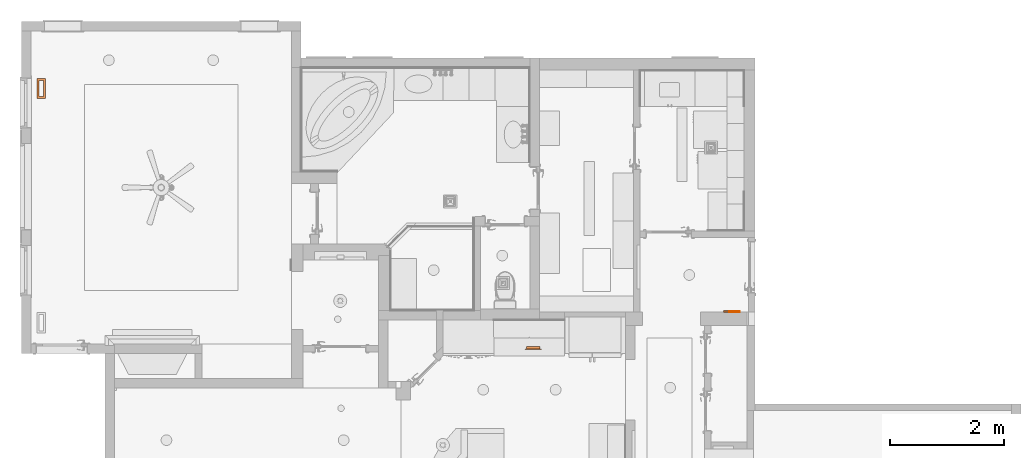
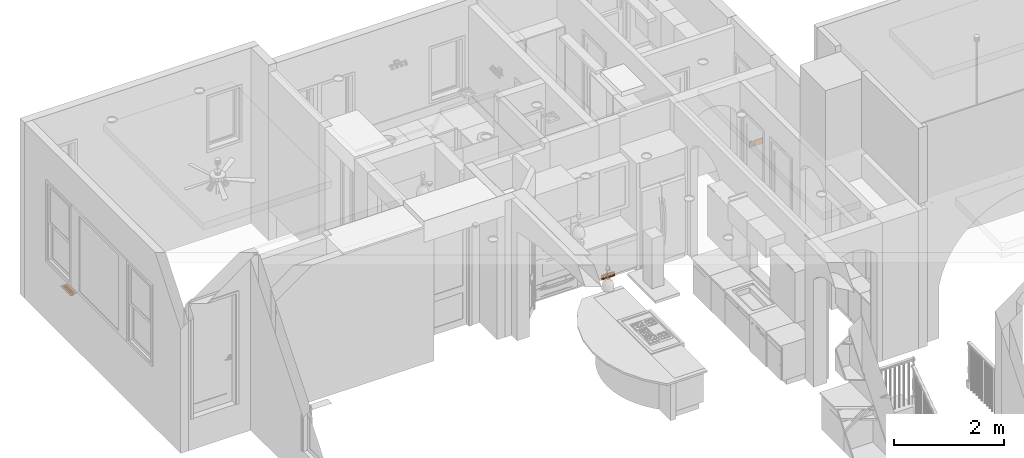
# One storey, part 74 of 77: 4 proxies.
"""IFC2X3 building model written with IfcOpenShell, lengths in inches."""

from ifc_helpers import new_model, entity, si_unit, converted_unit, derived_unit, money_unit, direction, frame, origin_with_axes, place, context, subcontext, project, spatial, open_shell, faceted_brep, surface_model, material, type_object, element, save


model = new_model("IFC2X3")

# Units and contexts
model_context = context("Model", 3, precision=0.000393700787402, world=origin_with_axes(), true_north=direction((0.0, 1.0)))
body_context = subcontext(model_context, "Body", "Model", "MODEL_VIEW")
ifc_project = project(units=[converted_unit("LENGTHUNIT", "INCH", entity("IfcPositiveLengthMeasure", 0.0254), si_unit("LENGTHUNIT", "METRE"), dimensions=[1, 0, 0, 0, 0, 0, 0]), converted_unit("AREAUNIT", "SQUARE_FOOT", entity("IfcPositiveLengthMeasure", 0.09290304), si_unit("AREAUNIT", "SQUARE_METRE"), dimensions=[2, 0, 0, 0, 0, 0, 0]), si_unit("PLANEANGLEUNIT", "RADIAN"), si_unit("SOLIDANGLEUNIT", "STERADIAN"), money_unit("USD"), converted_unit("TIMEUNIT", "Year", entity("IfcTimeMeasure", 31556926.0), si_unit("TIMEUNIT", "SECOND"), dimensions=[0, 0, 1, 0, 0, 0, 0]), si_unit("MASSUNIT", "GRAM", prefix="KILO"), si_unit("THERMODYNAMICTEMPERATUREUNIT", "DEGREE_CELSIUS"), si_unit("LUMINOUSINTENSITYUNIT", "LUMEN"), si_unit("ENERGYUNIT", "JOULE", prefix="MEGA"), derived_unit("THERMALCONDUCTANCEUNIT", [(si_unit("POWERUNIT", "WATT"), 1), (si_unit("LENGTHUNIT", "METRE"), -1), (si_unit("THERMODYNAMICTEMPERATUREUNIT", "KELVIN"), -1)]), derived_unit("SPECIFICHEATCAPACITYUNIT", [(si_unit("ENERGYUNIT", "JOULE"), 1), (si_unit("MASSUNIT", "GRAM", prefix="KILO"), -1), (si_unit("THERMODYNAMICTEMPERATUREUNIT", "KELVIN"), -1)]), derived_unit("MASSDENSITYUNIT", [(si_unit("MASSUNIT", "GRAM", prefix="KILO"), 1), (si_unit("VOLUMEUNIT", "CUBIC_METRE"), -1)])], contexts=[model_context])

# Site, building, storey
site_placement = place(None, origin_with_axes())
site = spatial("IfcSite", under=ifc_project, at=site_placement, Name="Site", CompositionType="ELEMENT")
building_placement = place(site_placement, origin_with_axes())
building = spatial("IfcBuilding", under=site, at=building_placement, Name="Building", CompositionType="ELEMENT")
storey_placement = place(building_placement, frame((0.0, 0.0, 127.952755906), z_axis=(0.0, 0.0, 1.0), x_axis=(1.0, 0.0, 0.0)))
storey = spatial("IfcBuildingStorey", under=building, at=storey_placement, Name="Second Floor", CompositionType="ELEMENT", Elevation=127.953)

# Proxies
ifc_material = material(Name="Generic - Structural")
building_element_proxy_type_1 = type_object("IfcBuildingElementProxyType", Name="Generic - Structural", PredefinedType="NOTDEFINED")
proxy_1_placement = place(storey_placement, frame((1909.2890168, 413.904050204, 51.968503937), z_axis=(0.0, 0.0, 1.0), x_axis=(1.0, 0.0, 0.0)))
element("IfcBuildingElementProxy", 1, at=proxy_1_placement, inside=storey, type_object=building_element_proxy_type_1, material=ifc_material, Name="MORPH-016", context=body_context, shape_type="Brep", body=[
    faceted_brep([(-1200.0, 0.0, 5.0), (-1200.0, 0.0, 0.0675863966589), (-1192.91125523, -2.01293400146e-08, 0.0675863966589), (-1192.91125523, -2.01293400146e-08, 5.0), (-1200.0, 0.582194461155, 0.0675863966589), (-1200.0, 0.582194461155, 5.0), (-1192.91125523, 0.582194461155, 0.0675863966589), (-1192.91125523, 0.582194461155, 5.0)], [[[0, 1, 2, 3]], [[4, 1, 0, 5]], [[2, 1, 6]], [[3, 2, 7]], [[5, 0, 3, 7]], [[1, 4, 6]], [[6, 4, 5]], [[2, 6, 7]], [[5, 7, 6]]]),
])
proxy_2_placement = place(storey_placement, frame((1905.2890168, 413.904050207, 56.968503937), z_axis=(1.0, 0.0, 0.0), x_axis=(0.0, 1.0, 0.0)))
element("IfcBuildingElementProxy", 2, at=proxy_2_placement, inside=storey, type_object=building_element_proxy_type_1, material=ifc_material, Name="MORPH-013", context=body_context, shape_type="Brep", body=[
    faceted_brep([(0.0, -4.93241360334, -1200.0), (0.0, -4.93241360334, -1197.03025611), (0.0, 0.0, -1197.03025611), (0.0, 0.0, -1200.0), (1.0, -4.93241360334, -1197.03025611), (1.0, 0.0, -1200.0), (1.0, 0.0, -1197.03025611), (1.0, -4.93241360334, -1200.0)], [[[0, 1, 2, 3]], [[1, 0, 4]], [[2, 1, 4]], [[5, 3, 2, 6]], [[0, 3, 5, 7]], [[0, 7, 4]], [[6, 2, 4]], [[4, 7, 5, 6]]]),
])
building_element_proxy_type_2 = type_object("IfcBuildingElementProxyType", Name="Sidewall Grille 25", PredefinedType="NOTDEFINED")
proxy_3_placement = place(storey_placement, frame((573.864643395, 388.211397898, 2.16535433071), z_axis=(0.0, 0.0, 1.0), x_axis=(1.0, 0.0, 0.0)))
element("IfcBuildingElementProxy", 3, at=proxy_3_placement, inside=storey, type_object=building_element_proxy_type_2, Name="FU - 004", context=body_context, shape_type="SurfaceModel", body=[
    faceted_brep([(5.6092519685, -0.196850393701, -2.1092519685), (-5.6092519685, -0.196850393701, -2.1092519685), (-5.6092519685, 0.0, -2.1092519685), (5.6092519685, 0.0, -2.1092519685), (5.6092519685, -0.196850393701, 2.1092519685), (-5.6092519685, -0.196850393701, 2.1092519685), (4.625, -0.196850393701, -1.125), (-4.625, -0.196850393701, -1.125), (-4.625, -0.196850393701, 1.125), (4.625, -0.196850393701, 1.125), (-5.6092519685, 0.0, 2.1092519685), (5.6092519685, 0.0, 2.1092519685), (4.625, 0.0, -1.125), (4.625, 0.0, 1.125), (-4.625, 0.0, 1.125), (-4.625, 0.0, -1.125)], [[[0, 1, 2, 3]], [[0, 4, 5, 1], [6, 7, 8, 9]], [[1, 5, 10, 2]], [[3, 2, 10, 11], [12, 13, 14, 15]], [[4, 0, 3, 11]], [[5, 4, 11, 10]], [[7, 6, 12, 15]], [[8, 7, 15, 14]], [[9, 8, 14, 13]], [[6, 9, 13, 12]]]),
    surface_model("IfcShellBasedSurfaceModel", [(-4.58562992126, -0.196850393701, -0.984251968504), (4.58562992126, -0.196850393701, -0.984251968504), (4.58562992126, 0.787401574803, -0.984251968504), (-4.58562992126, 0.787401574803, -0.984251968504)], [open_shell([[[0, 1, 2, 3]]])]),
    surface_model("IfcShellBasedSurfaceModel", [(-4.58562992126, -0.196850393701, 0.984251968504), (4.58562992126, -0.196850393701, 0.984251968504), (4.58562992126, 0.787401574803, 0.984251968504), (-4.58562992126, 0.787401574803, 0.984251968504)], [open_shell([[[0, 1, 2, 3]]])]),
    surface_model("IfcShellBasedSurfaceModel", [(3.93700787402, -0.196850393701, 1.08562992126), (3.93700787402, -0.196850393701, -1.08562992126), (3.93700787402, 0.787401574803, -1.08562992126), (3.93700787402, 0.787401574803, 1.08562992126)], [open_shell([[[0, 1, 2, 3]]])]),
    surface_model("IfcShellBasedSurfaceModel", [(1.96850393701, -0.196850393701, 1.08562992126), (1.96850393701, -0.196850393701, -1.08562992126), (1.96850393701, 0.787401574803, -1.08562992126), (1.96850393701, 0.787401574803, 1.08562992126)], [open_shell([[[0, 1, 2, 3]]])]),
    surface_model("IfcShellBasedSurfaceModel", [(0.0, -0.196850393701, 1.08562992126), (0.0, -0.196850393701, -1.08562992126), (0.0, 0.787401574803, -1.08562992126), (0.0, 0.787401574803, 1.08562992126)], [open_shell([[[0, 1, 2, 3]]])]),
    surface_model("IfcShellBasedSurfaceModel", [(-1.96850393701, -0.196850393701, 1.08562992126), (-1.96850393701, -0.196850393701, -1.08562992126), (-1.96850393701, 0.787401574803, -1.08562992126), (-1.96850393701, 0.787401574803, 1.08562992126)], [open_shell([[[0, 1, 2, 3]]])]),
    surface_model("IfcShellBasedSurfaceModel", [(-3.93700787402, -0.196850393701, 1.08562992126), (-3.93700787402, -0.196850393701, -1.08562992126), (-3.93700787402, 0.787401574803, -1.08562992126), (-3.93700787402, 0.787401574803, 1.08562992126)], [open_shell([[[0, 1, 2, 3]]])]),
    surface_model("IfcShellBasedSurfaceModel", [(-4.625, 0.0, -1.125), (-4.625, 0.0, 1.125), (-4.625, 1.96850393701, 1.125), (-4.625, 1.96850393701, -1.125), (4.625, 0.0, 1.125), (4.625, 1.96850393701, 1.125), (4.625, 0.0, -1.125), (4.625, 1.96850393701, -1.125)], [open_shell([[[0, 1, 2, 3]], [[1, 4, 5, 2]], [[6, 0, 3, 7]], [[4, 6, 7, 5]]])]),
])
building_element_proxy_type_3 = type_object("IfcBuildingElementProxyType", Name="Rect Floor Register 25", PredefinedType="NOTDEFINED")
proxy_4_placement = place(storey_placement, frame((233.695525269, 568.432751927, 0.0), z_axis=(0.0, 0.0, 1.0), x_axis=(0.0, -1.0, 0.0)))
element("IfcBuildingElementProxy", 4, at=proxy_4_placement, inside=storey, type_object=building_element_proxy_type_3, Name="FU - 027", context=body_context, shape_type="SurfaceModel", body=[
    faceted_brep([(6.95669291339, 2.95669291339, 0.0), (-6.95669291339, 2.95669291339, 0.0), (-6.95669291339, 2.95669291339, 0.196850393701), (6.95669291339, 2.95669291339, 0.196850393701), (6.95669291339, -2.95669291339, 0.0), (-6.95669291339, -2.95669291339, 0.0), (5.57874015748, 1.57874015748, 0.0), (-5.57874015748, 1.57874015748, 0.0), (-5.57874015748, -1.57874015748, 0.0), (5.57874015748, -1.57874015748, 0.0), (-6.95669291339, -2.95669291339, 0.196850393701), (6.95669291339, -2.95669291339, 0.196850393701), (5.57874015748, 1.57874015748, 0.196850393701), (5.57874015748, -1.57874015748, 0.196850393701), (-5.57874015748, -1.57874015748, 0.196850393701), (-5.57874015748, 1.57874015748, 0.196850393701)], [[[0, 1, 2, 3]], [[0, 4, 5, 1], [6, 7, 8, 9]], [[1, 5, 10, 2]], [[3, 2, 10, 11], [12, 13, 14, 15]], [[4, 0, 3, 11]], [[5, 4, 11, 10]], [[7, 6, 12, 15]], [[8, 7, 15, 14]], [[9, 8, 14, 13]], [[6, 9, 13, 12]]]),
    surface_model("IfcShellBasedSurfaceModel", [(-5.53937007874, 1.47637795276, -0.787401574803), (5.53937007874, 1.47637795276, -0.787401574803), (5.53937007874, 1.47637795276, 0.196850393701), (-5.53937007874, 1.47637795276, 0.196850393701)], [open_shell([[[0, 1, 2, 3]]])]),
    surface_model("IfcShellBasedSurfaceModel", [(-5.53937007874, 0.492125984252, -0.787401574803), (5.53937007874, 0.492125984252, -0.787401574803), (5.53937007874, 0.492125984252, 0.196850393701), (-5.53937007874, 0.492125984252, 0.196850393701)], [open_shell([[[0, 1, 2, 3]]])]),
    surface_model("IfcShellBasedSurfaceModel", [(-5.53937007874, -0.492125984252, -0.787401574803), (5.53937007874, -0.492125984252, -0.787401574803), (5.53937007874, -0.492125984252, 0.196850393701), (-5.53937007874, -0.492125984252, 0.196850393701)], [open_shell([[[0, 1, 2, 3]]])]),
    surface_model("IfcShellBasedSurfaceModel", [(-5.53937007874, -1.47637795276, -0.787401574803), (5.53937007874, -1.47637795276, -0.787401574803), (5.53937007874, -1.47637795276, 0.196850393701), (-5.53937007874, -1.47637795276, 0.196850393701)], [open_shell([[[0, 1, 2, 3]]])]),
    surface_model("IfcShellBasedSurfaceModel", [(5.41338582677, -1.53937007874, -0.787401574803), (5.41338582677, 1.53937007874, -0.787401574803), (5.41338582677, 1.53937007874, 0.196850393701), (5.41338582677, -1.53937007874, 0.196850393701)], [open_shell([[[0, 1, 2, 3]]])]),
    surface_model("IfcShellBasedSurfaceModel", [(4.42913385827, -1.53937007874, -0.787401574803), (4.42913385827, 1.53937007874, -0.787401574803), (4.42913385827, 1.53937007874, 0.196850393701), (4.42913385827, -1.53937007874, 0.196850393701)], [open_shell([[[0, 1, 2, 3]]])]),
    surface_model("IfcShellBasedSurfaceModel", [(3.44488188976, -1.53937007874, -0.787401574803), (3.44488188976, 1.53937007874, -0.787401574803), (3.44488188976, 1.53937007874, 0.196850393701), (3.44488188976, -1.53937007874, 0.196850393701)], [open_shell([[[0, 1, 2, 3]]])]),
    surface_model("IfcShellBasedSurfaceModel", [(2.46062992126, -1.53937007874, -0.787401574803), (2.46062992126, 1.53937007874, -0.787401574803), (2.46062992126, 1.53937007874, 0.196850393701), (2.46062992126, -1.53937007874, 0.196850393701)], [open_shell([[[0, 1, 2, 3]]])]),
    surface_model("IfcShellBasedSurfaceModel", [(1.47637795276, -1.53937007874, -0.787401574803), (1.47637795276, 1.53937007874, -0.787401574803), (1.47637795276, 1.53937007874, 0.196850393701), (1.47637795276, -1.53937007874, 0.196850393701)], [open_shell([[[0, 1, 2, 3]]])]),
    surface_model("IfcShellBasedSurfaceModel", [(0.492125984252, -1.53937007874, -0.787401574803), (0.492125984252, 1.53937007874, -0.787401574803), (0.492125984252, 1.53937007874, 0.196850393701), (0.492125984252, -1.53937007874, 0.196850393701)], [open_shell([[[0, 1, 2, 3]]])]),
    surface_model("IfcShellBasedSurfaceModel", [(-0.492125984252, -1.53937007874, -0.787401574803), (-0.492125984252, 1.53937007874, -0.787401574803), (-0.492125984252, 1.53937007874, 0.196850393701), (-0.492125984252, -1.53937007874, 0.196850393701)], [open_shell([[[0, 1, 2, 3]]])]),
    surface_model("IfcShellBasedSurfaceModel", [(-1.47637795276, -1.53937007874, -0.787401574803), (-1.47637795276, 1.53937007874, -0.787401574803), (-1.47637795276, 1.53937007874, 0.196850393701), (-1.47637795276, -1.53937007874, 0.196850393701)], [open_shell([[[0, 1, 2, 3]]])]),
    surface_model("IfcShellBasedSurfaceModel", [(-2.46062992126, -1.53937007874, -0.787401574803), (-2.46062992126, 1.53937007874, -0.787401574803), (-2.46062992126, 1.53937007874, 0.196850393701), (-2.46062992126, -1.53937007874, 0.196850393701)], [open_shell([[[0, 1, 2, 3]]])]),
    surface_model("IfcShellBasedSurfaceModel", [(-3.44488188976, -1.53937007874, -0.787401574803), (-3.44488188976, 1.53937007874, -0.787401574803), (-3.44488188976, 1.53937007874, 0.196850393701), (-3.44488188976, -1.53937007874, 0.196850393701)], [open_shell([[[0, 1, 2, 3]]])]),
    surface_model("IfcShellBasedSurfaceModel", [(-4.42913385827, -1.53937007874, -0.787401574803), (-4.42913385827, 1.53937007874, -0.787401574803), (-4.42913385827, 1.53937007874, 0.196850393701), (-4.42913385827, -1.53937007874, 0.196850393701)], [open_shell([[[0, 1, 2, 3]]])]),
    surface_model("IfcShellBasedSurfaceModel", [(-5.41338582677, -1.53937007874, -0.787401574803), (-5.41338582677, 1.53937007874, -0.787401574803), (-5.41338582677, 1.53937007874, 0.196850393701), (-5.41338582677, -1.53937007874, 0.196850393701)], [open_shell([[[0, 1, 2, 3]]])]),
    surface_model("IfcShellBasedSurfaceModel", [(-5.57874015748, -1.57874015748, 0.0), (-5.57874015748, 1.57874015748, 0.0), (-5.57874015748, 1.57874015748, -1.96850393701), (-5.57874015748, -1.57874015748, -1.96850393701), (5.57874015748, 1.57874015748, 0.0), (5.57874015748, 1.57874015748, -1.96850393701), (5.57874015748, -1.57874015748, 0.0), (5.57874015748, -1.57874015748, -1.96850393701)], [open_shell([[[0, 1, 2, 3]], [[1, 4, 5, 2]], [[6, 0, 3, 7]], [[4, 6, 7, 5]]])]),
])

save(model, "model.ifc")
